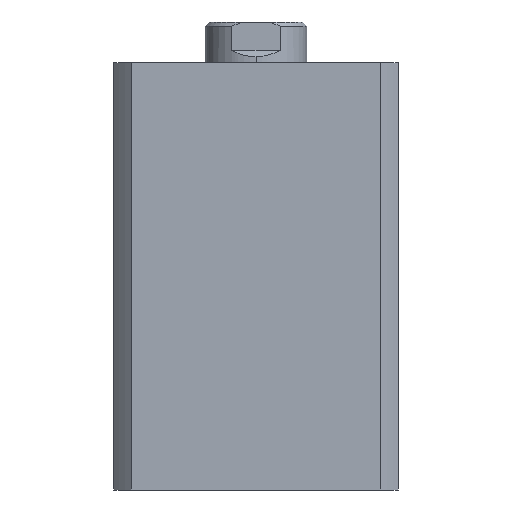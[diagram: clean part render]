
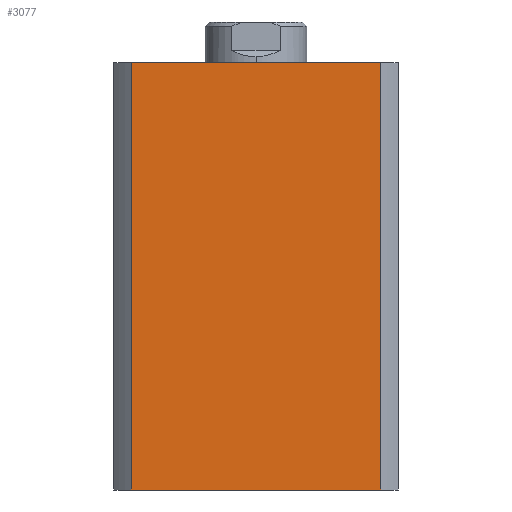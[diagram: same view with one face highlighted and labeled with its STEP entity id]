
A CAD part, left-side view. The second image highlights one B-rep face of the part: STEP entity #3077.
In plain terms, the highlighted planar face has unit normal (-1, 0, 0).
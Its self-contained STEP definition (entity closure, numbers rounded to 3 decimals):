
#565 = DIRECTION ( 'NONE',  ( 0., -1., 0. ) ) ;
#566 = CARTESIAN_POINT ( 'NONE',  ( -35., 0., 105. ) ) ;
#855 = AXIS2_PLACEMENT_3D ( 'NONE', #1701, #1707, #1708 ) ;
#1186 = EDGE_CURVE ( 'NONE', #2847, #2841, #2531, .T. ) ;
#1289 = EDGE_CURVE ( 'NONE', #2841, #2884, #2677, .T. ) ;
#1290 = EDGE_CURVE ( 'NONE', #2885, #2884, #2686, .T. ) ;
#1291 = EDGE_CURVE ( 'NONE', #2847, #2885, #2685, .T. ) ;
#1701 = CARTESIAN_POINT ( 'NONE',  ( -35., 0., 105. ) ) ;
#1705 = PLANE ( 'NONE',  #855 ) ;
#1707 = DIRECTION ( 'NONE',  ( 1., 0., 0. ) ) ;
#1708 = DIRECTION ( 'NONE',  ( 0., 1., 0. ) ) ;
#2531 = LINE ( 'NONE', #566, #2533 ) ;
#2533 = VECTOR ( 'NONE', #565, 1000. ) ;
#2677 = LINE ( 'NONE', #4513, #2687 ) ;
#2685 = LINE ( 'NONE', #4512, #2691 ) ;
#2686 = LINE ( 'NONE', #4517, #2689 ) ;
#2687 = VECTOR ( 'NONE', #4506, 1000. ) ;
#2689 = VECTOR ( 'NONE', #4518, 1000. ) ;
#2691 = VECTOR ( 'NONE', #4519, 1000. ) ;
#2809 = FACE_OUTER_BOUND ( 'NONE', #3537, .T. ) ;
#2841 = VERTEX_POINT ( 'NONE', #4565 ) ;
#2847 = VERTEX_POINT ( 'NONE', #4571 ) ;
#2884 = VERTEX_POINT ( 'NONE', #4590 ) ;
#2885 = VERTEX_POINT ( 'NONE', #4585 ) ;
#3077 = ADVANCED_FACE ( 'NONE', ( #2809 ), #1705, .F. ) ;
#3537 = EDGE_LOOP ( 'NONE', ( #4025, #4024, #4023, #4022 ) ) ;
#4022 = ORIENTED_EDGE ( 'NONE', *, *, #1291, .T. ) ;
#4023 = ORIENTED_EDGE ( 'NONE', *, *, #1186, .F. ) ;
#4024 = ORIENTED_EDGE ( 'NONE', *, *, #1289, .F. ) ;
#4025 = ORIENTED_EDGE ( 'NONE', *, *, #1290, .T. ) ;
#4506 = DIRECTION ( 'NONE',  ( 0., 0., -1. ) ) ;
#4512 = CARTESIAN_POINT ( 'NONE',  ( -35., 30.615, 105. ) ) ;
#4513 = CARTESIAN_POINT ( 'NONE',  ( -35., -30.615, 105. ) ) ;
#4517 = CARTESIAN_POINT ( 'NONE',  ( -35., 0., 0. ) ) ;
#4518 = DIRECTION ( 'NONE',  ( 0., -1., 0. ) ) ;
#4519 = DIRECTION ( 'NONE',  ( 0., 0., -1. ) ) ;
#4565 = CARTESIAN_POINT ( 'NONE',  ( -35., -30.615, 105. ) ) ;
#4571 = CARTESIAN_POINT ( 'NONE',  ( -35., 30.615, 105. ) ) ;
#4585 = CARTESIAN_POINT ( 'NONE',  ( -35., 30.615, 0. ) ) ;
#4590 = CARTESIAN_POINT ( 'NONE',  ( -35., -30.615, 0. ) ) ;
